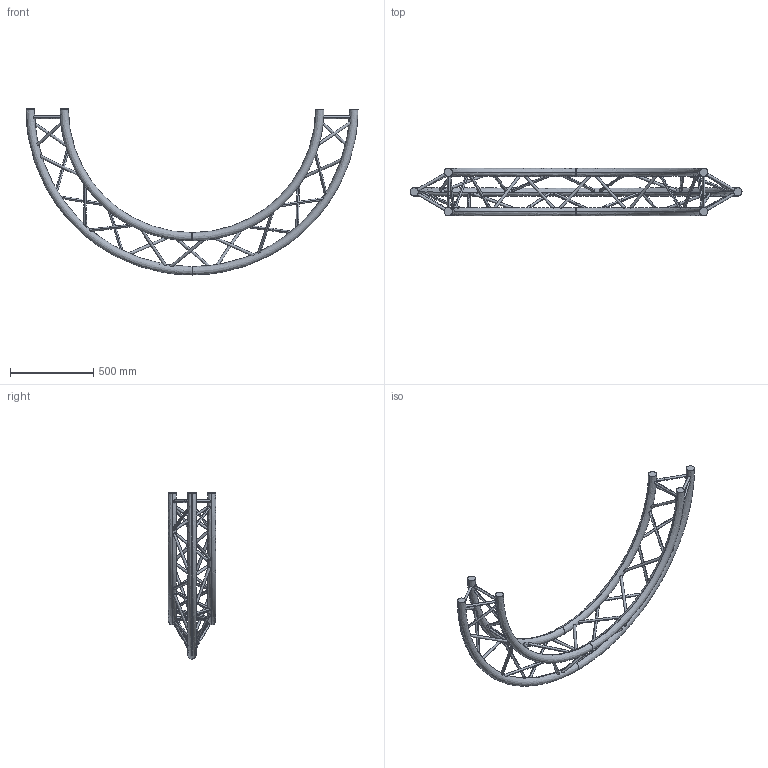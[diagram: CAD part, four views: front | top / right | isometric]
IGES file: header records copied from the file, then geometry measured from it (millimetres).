
Start section: SolidWorks IGES file using analytic representation for surfaces
Global section: file name: K:\BIBLIO\asd_biblio\SX290\Cercles\SXC29PE\SXC29200PE\SXC29200PE.IGS; native system: SolidWorks 2009; preprocessor: SolidWorks 2009; author: des3; date: 091021.114003; units: millimetre
Bounding box: 2000 x 287 x 1000 mm (x, y, z)
Surface area: 1717153.7 mm2 (no closed solid volume)
Topology: 0 solids, 0 shells, 96 faces, 6325 edges, 6325 vertices
Faces by surface type: revolution 78, bspline 18
